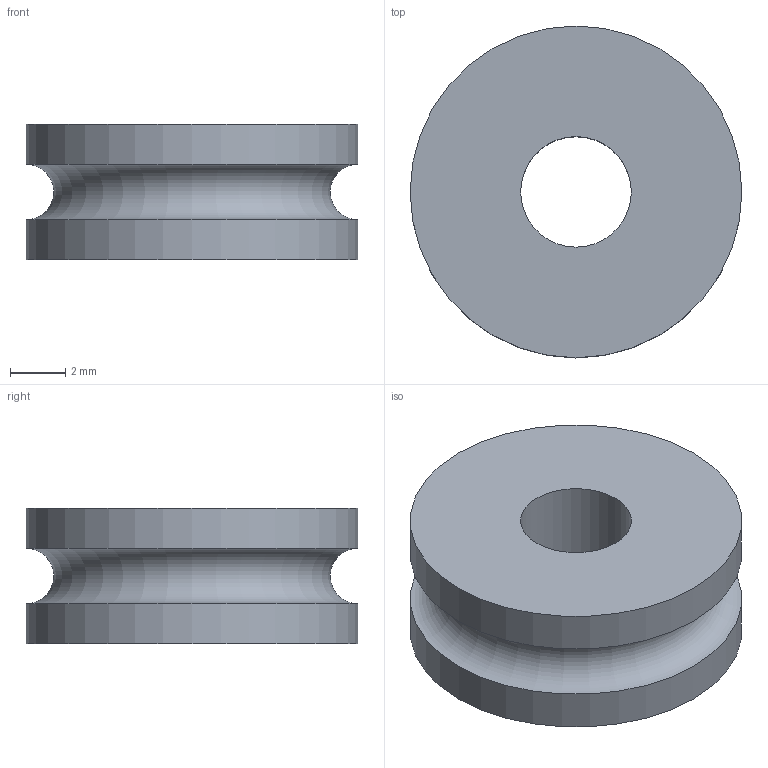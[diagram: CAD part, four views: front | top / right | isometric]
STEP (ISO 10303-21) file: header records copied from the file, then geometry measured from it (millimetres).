
FILE_DESCRIPTION((''),'2;1');
FILE_NAME('I:\Gleitlager\Vertrieb\Labor\robolink\Vertrieb-Tim\Step Daten\RL-SD-SR-02-0412-05.stp','2011-06-30T11:36:04',('MRaak'),(''),'Autodesk Inventor 2011','Autodesk Inventor 2011','');
FILE_SCHEMA(('AUTOMOTIVE_DESIGN { 1 0 10303 214 1 1 1 1 }'));
Length unit declared in the file: millimetre
Products named in the file (1): RL-SD-SR-02-0412-05
Bounding box: 12 x 12 x 4.9 mm (x, y, z)
Volume: 437.6 mm3; surface area: 477.8 mm2
Topology: 1 solids, 1 shells, 6 faces, 10 edges, 6 vertices
Faces by surface type: cylinder 3, plane 2, torus 1
Full cylindrical faces by diameter (mm): 4 x1, 12 x2
Entity records: 154 total; most frequent: DIRECTION 26, CARTESIAN_POINT 19, AXIS2_PLACEMENT_3D 13, ORIENTED_EDGE 12, EDGE_LOOP 12, VERTEX_POINT 6, CIRCLE 6, EDGE_CURVE 6
